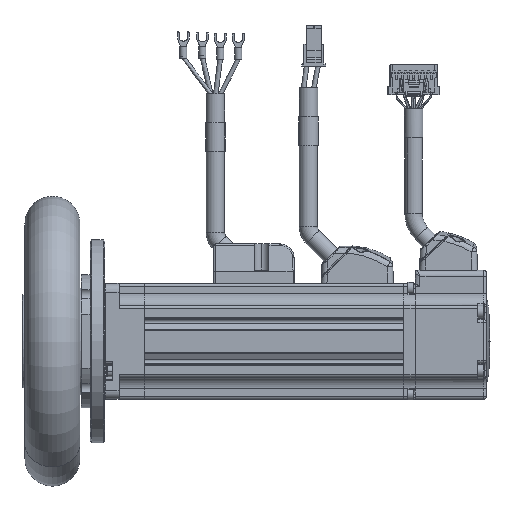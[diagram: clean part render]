
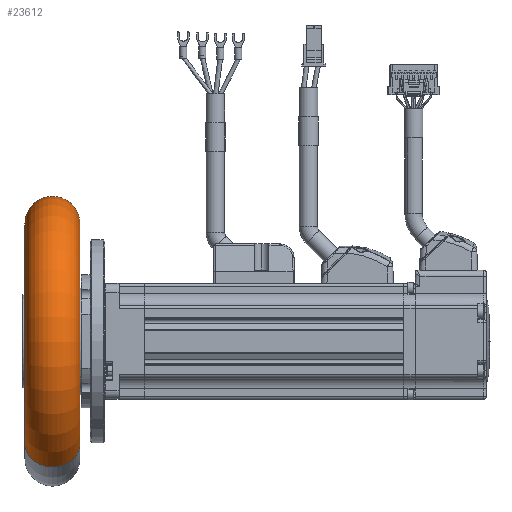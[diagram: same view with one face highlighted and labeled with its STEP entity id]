
A CAD part, front view. The second image highlights one B-rep face of the part: STEP entity #23612.
In plain terms, the highlighted toroidal (fillet/blend) face has major radius 40.5 mm and minor radius 9.5 mm.
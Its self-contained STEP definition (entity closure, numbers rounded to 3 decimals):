
#23398=CARTESIAN_POINT('',(0.,9.5,0.));
#23399=DIRECTION('',(0.,-1.,0.));
#23400=DIRECTION('',(1.,0.,0.));
#23401=AXIS2_PLACEMENT_3D('',#23398,#23399,#23400);
#23408=CARTESIAN_POINT('',(40.5,0.,0.));
#23409=DIRECTION('',(0.,0.,1.));
#23410=DIRECTION('',(0.,-1.,0.));
#23411=AXIS2_PLACEMENT_3D('',#23408,#23409,#23410);
#23413=CARTESIAN_POINT('',(0.,-9.5,0.));
#23414=DIRECTION('',(0.,-1.,0.));
#23415=DIRECTION('',(1.,0.,0.));
#23416=AXIS2_PLACEMENT_3D('',#23413,#23414,#23415);
#23418=CARTESIAN_POINT('',(-40.5,0.,0.));
#23419=DIRECTION('',(0.,0.,-1.));
#23420=DIRECTION('',(0.,-1.,0.));
#23421=AXIS2_PLACEMENT_3D('',#23418,#23419,#23420);
#23507=CARTESIAN_POINT('',(40.5,-9.5,0.));
#23508=CARTESIAN_POINT('',(40.5,9.5,0.));
#23509=VERTEX_POINT('',#23507);
#23510=VERTEX_POINT('',#23508);
#23515=CARTESIAN_POINT('',(-40.5,-9.5,0.));
#23516=CARTESIAN_POINT('',(-40.5,9.5,0.));
#23517=VERTEX_POINT('',#23515);
#23518=VERTEX_POINT('',#23516);
#23600=CARTESIAN_POINT('',(0.,0.,0.));
#23601=DIRECTION('',(0.,1.,0.));
#23602=DIRECTION('',(1.,0.,0.));
#23603=AXIS2_PLACEMENT_3D('',#23600,#23601,#23602);
#23604=TOROIDAL_SURFACE('',#23603,40.5,9.5);
#23605=ORIENTED_EDGE('',*,*,#23590,.F.);
#23607=ORIENTED_EDGE('',*,*,#23606,.T.);
#23608=ORIENTED_EDGE('',*,*,#23593,.T.);
#23609=ORIENTED_EDGE('',*,*,#23576,.F.);
#23610=EDGE_LOOP('',(#23605,#23607,#23608,#23609));
#23611=FACE_OUTER_BOUND('',#23610,.F.);
#23612=ADVANCED_FACE('',(#23611),#23604,.T.);
#23402=CIRCLE('',#23401,40.5);
#23412=CIRCLE('',#23411,9.5);
#23417=CIRCLE('',#23416,40.5);
#23422=CIRCLE('',#23421,9.5);
#23576=EDGE_CURVE('',#23510,#23518,#23402,.T.);
#23590=EDGE_CURVE('',#23509,#23510,#23412,.T.);
#23593=EDGE_CURVE('',#23517,#23518,#23422,.T.);
#23606=EDGE_CURVE('',#23509,#23517,#23417,.T.);
